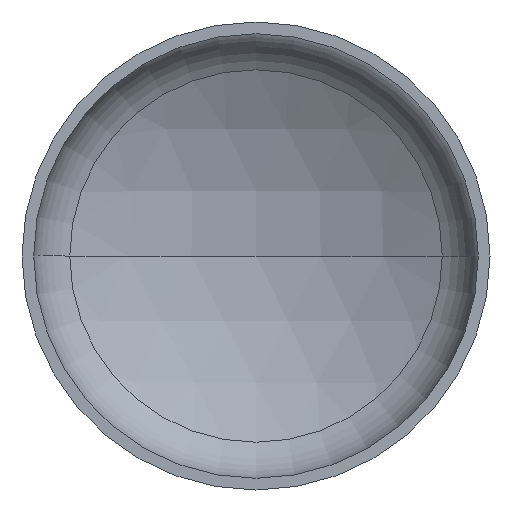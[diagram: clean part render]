
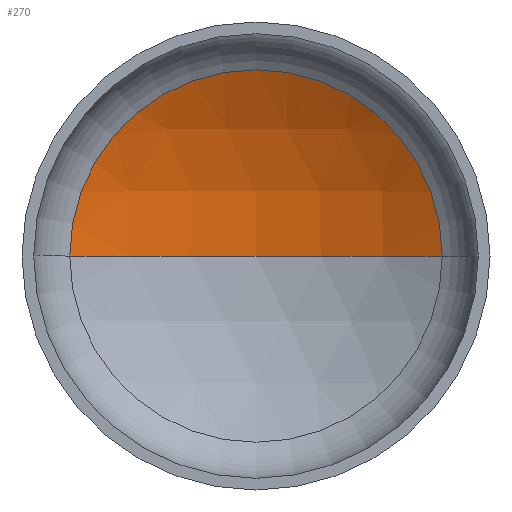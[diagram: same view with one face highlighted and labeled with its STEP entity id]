
A CAD part, front view. The second image highlights one B-rep face of the part: STEP entity #270.
In plain terms, the highlighted spherical face has radius 480 mm.
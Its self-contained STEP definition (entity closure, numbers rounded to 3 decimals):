
#11 = EDGE_LOOP ( 'NONE', ( #25, #31, #264 ) ) ;
#23 = AXIS2_PLACEMENT_3D ( 'NONE', #300, #173, #389 ) ;
#25 = ORIENTED_EDGE ( 'NONE', *, *, #395, .F. ) ;
#31 = ORIENTED_EDGE ( 'NONE', *, *, #354, .T. ) ;
#35 = AXIS2_PLACEMENT_3D ( 'NONE', #199, #373, #318 ) ;
#49 = VERTEX_POINT ( 'NONE', #242 ) ;
#51 = VERTEX_POINT ( 'NONE', #240 ) ;
#62 = AXIS2_PLACEMENT_3D ( 'NONE', #403, #346, #345 ) ;
#126 = VERTEX_POINT ( 'NONE', #340 ) ;
#162 = AXIS2_PLACEMENT_3D ( 'NONE', #179, #352, #203 ) ;
#173 = DIRECTION ( 'NONE',  ( 0., 0., -1. ) ) ;
#179 = CARTESIAN_POINT ( 'NONE',  ( 0., -291.593, 0. ) ) ;
#193 = CIRCLE ( 'NONE', #23, 480. ) ;
#199 = CARTESIAN_POINT ( 'NONE',  ( 0., 124.811, 0. ) ) ;
#203 = DIRECTION ( 'NONE',  ( 1., 0., 0. ) ) ;
#217 = SPHERICAL_SURFACE ( 'NONE', #62, 480. ) ;
#236 = CIRCLE ( 'NONE', #162, 480. ) ;
#240 = CARTESIAN_POINT ( 'NONE',  ( 0., 188.407, 0. ) ) ;
#242 = CARTESIAN_POINT ( 'NONE',  ( -238.763, 124.811, 0. ) ) ;
#264 = ORIENTED_EDGE ( 'NONE', *, *, #349, .T. ) ;
#270 = ADVANCED_FACE ( 'NONE', ( #396 ), #217, .F. ) ;
#300 = CARTESIAN_POINT ( 'NONE',  ( 0., -291.593, 0. ) ) ;
#318 = DIRECTION ( 'NONE',  ( 1., 0., 0. ) ) ;
#340 = CARTESIAN_POINT ( 'NONE',  ( 238.763, 124.811, 0. ) ) ;
#345 = DIRECTION ( 'NONE',  ( -1., 0., 0. ) ) ;
#346 = DIRECTION ( 'NONE',  ( 0., 0., -1. ) ) ;
#349 = EDGE_CURVE ( 'NONE', #126, #49, #385, .T. ) ;
#352 = DIRECTION ( 'NONE',  ( 0., 0., 1. ) ) ;
#354 = EDGE_CURVE ( 'NONE', #51, #126, #193, .T. ) ;
#373 = DIRECTION ( 'NONE',  ( 0., -1., 0. ) ) ;
#385 = CIRCLE ( 'NONE', #35, 238.763 ) ;
#389 = DIRECTION ( 'NONE',  ( -1., 0., 0. ) ) ;
#395 = EDGE_CURVE ( 'NONE', #51, #49, #236, .T. ) ;
#396 = FACE_OUTER_BOUND ( 'NONE', #11, .T. ) ;
#403 = CARTESIAN_POINT ( 'NONE',  ( 0., -291.593, 0. ) ) ;
